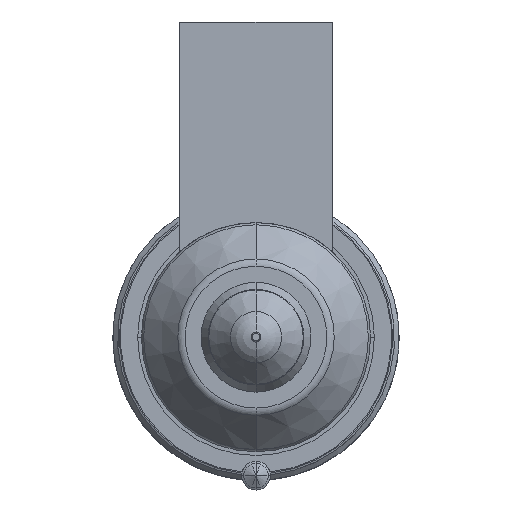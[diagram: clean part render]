
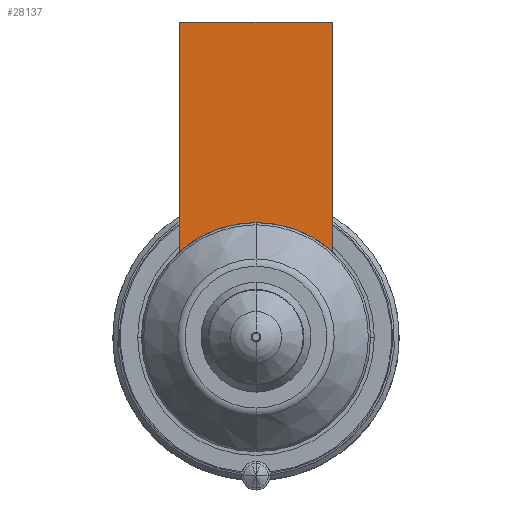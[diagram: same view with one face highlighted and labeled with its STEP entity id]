
A CAD part, front view. The second image highlights one B-rep face of the part: STEP entity #28137.
In plain terms, the highlighted planar face has unit normal (0, -1, 0).
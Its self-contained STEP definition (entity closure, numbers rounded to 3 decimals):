
#27227=DIRECTION('',(0.,0.,-1.));
#27228=VECTOR('',#27227,24.056);
#27229=CARTESIAN_POINT('',(-8.,-56.,33.));
#27230=LINE('',#27229,#27228);
#27267=DIRECTION('',(1.,0.,0.));
#27268=VECTOR('',#27267,16.);
#27269=CARTESIAN_POINT('',(-8.,-56.,33.));
#27270=LINE('',#27269,#27268);
#27274=CARTESIAN_POINT('',(0.,-56.,0.));
#27275=DIRECTION('',(0.,-1.,0.));
#27276=DIRECTION('',(0.667,0.,0.745));
#27277=AXIS2_PLACEMENT_3D('',#27274,#27275,#27276);
#27282=CARTESIAN_POINT('',(0.,-56.,0.));
#27283=DIRECTION('',(0.,-1.,0.));
#27284=DIRECTION('',(0.,0.,1.));
#27285=AXIS2_PLACEMENT_3D('',#27282,#27283,#27284);
#27318=DIRECTION('',(0.,0.,-1.));
#27319=VECTOR('',#27318,24.056);
#27320=CARTESIAN_POINT('',(8.,-56.,33.));
#27321=LINE('',#27320,#27319);
#27973=CARTESIAN_POINT('',(-8.,-56.,33.));
#27974=VERTEX_POINT('',#27973);
#27979=CARTESIAN_POINT('',(8.,-56.,33.));
#27980=VERTEX_POINT('',#27979);
#27983=CARTESIAN_POINT('',(-8.,-56.,8.944));
#27984=VERTEX_POINT('',#27983);
#27987=CARTESIAN_POINT('',(8.,-56.,8.944));
#27988=VERTEX_POINT('',#27987);
#28056=CARTESIAN_POINT('',(0.,-56.,12.));
#28057=VERTEX_POINT('',#28056);
#28122=CARTESIAN_POINT('',(-8.,-56.,33.));
#28123=DIRECTION('',(0.,-1.,0.));
#28124=DIRECTION('',(0.,0.,-1.));
#28125=AXIS2_PLACEMENT_3D('',#28122,#28123,#28124);
#28126=PLANE('',#28125);
#28127=ORIENTED_EDGE('',*,*,#28070,.F.);
#28129=ORIENTED_EDGE('',*,*,#28128,.T.);
#28131=ORIENTED_EDGE('',*,*,#28130,.T.);
#28133=ORIENTED_EDGE('',*,*,#28132,.T.);
#28134=ORIENTED_EDGE('',*,*,#28102,.T.);
#28135=EDGE_LOOP('',(#28127,#28129,#28131,#28133,#28134));
#28136=FACE_OUTER_BOUND('',#28135,.F.);
#28137=ADVANCED_FACE('',(#28136),#28126,.T.);
#27278=CIRCLE('',#27277,12.);
#27286=CIRCLE('',#27285,12.);
#28070=EDGE_CURVE('',#27974,#27984,#27230,.T.);
#28102=EDGE_CURVE('',#28057,#27984,#27286,.T.);
#28128=EDGE_CURVE('',#27974,#27980,#27270,.T.);
#28130=EDGE_CURVE('',#27980,#27988,#27321,.T.);
#28132=EDGE_CURVE('',#27988,#28057,#27278,.T.);
